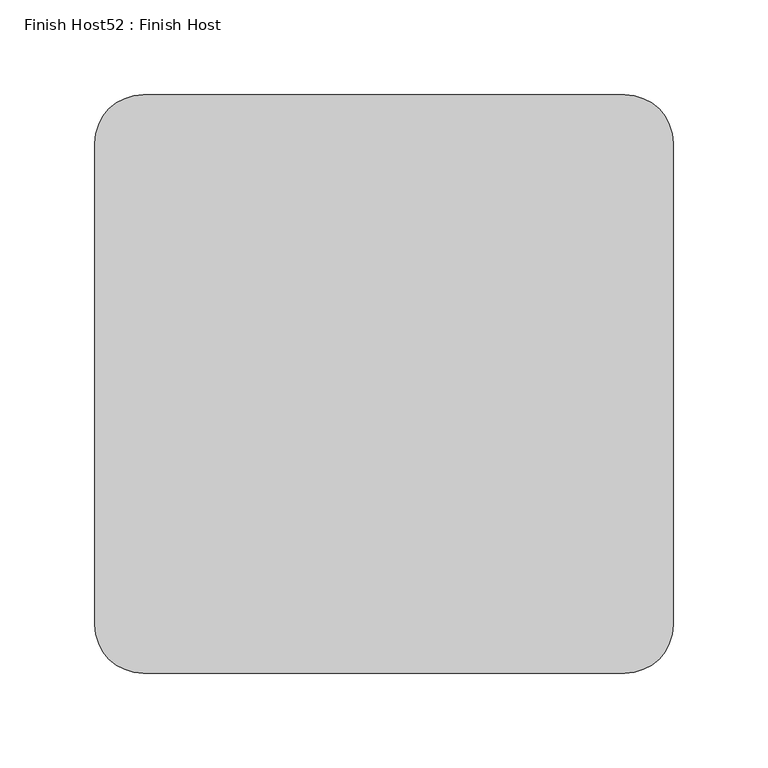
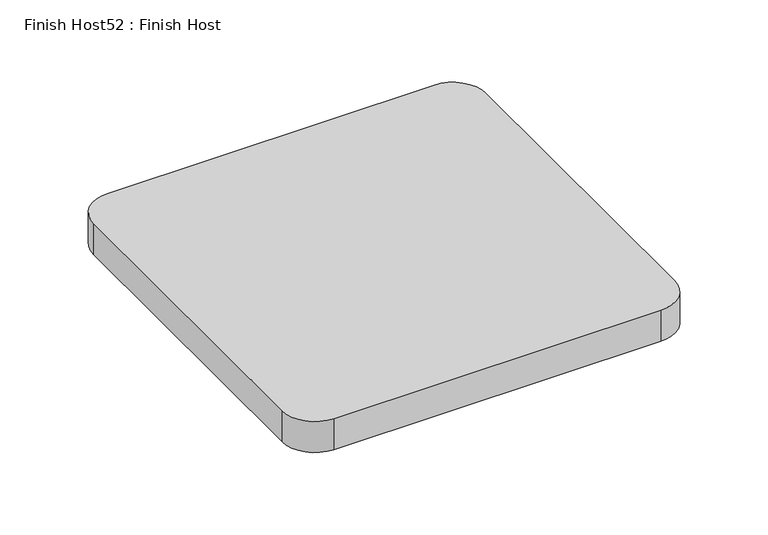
"""IFC4 building model written with IfcOpenShell, lengths in millimetres: proxy geometry, Finish Host52 : Finish Host."""

from ifc_helpers import new_model, si_unit, point, frame_2d, origin, origin_with_axes, place, context, project, spatial, polyline, circle_curve, trimmed, segment, composite_curve, outline, extrude, source, transform, mapped, element, save


def finish_host52_finish_host_f7eaa4a8(model_context):
    return source(origin(), model_context, "Body", "SweptSolid", [
        extrude(outline(composite_curve([segment(polyline([(8404.3478493, 1206.8122951), (8404.3478493, 1460.8122951)]), True, "CONTINUOUS"), segment(trimmed(circle_curve(frame_2d((8429.7478493, 1460.8122951)), 25.4), [point((8404.3478493, 1460.8122951))], [point((8429.7478493, 1486.2122951))], False, "CARTESIAN"), True, "CONTINUOUS"), segment(polyline([(8429.7478493, 1486.2122951), (8683.7478493, 1486.2122951)]), True, "CONTINUOUS"), segment(trimmed(circle_curve(frame_2d((8683.7478493, 1460.8122951)), 25.4), [point((8683.7478493, 1486.2122951))], [point((8709.1478493, 1460.8122951))], False, "CARTESIAN"), True, "CONTINUOUS"), segment(polyline([(8709.1478493, 1460.8122951), (8709.1478493, 1206.8122951)]), True, "CONTINUOUS"), segment(trimmed(circle_curve(frame_2d((8683.7478493, 1206.8122951)), 25.4), [point((8709.1478493, 1206.8122951))], [point((8683.7478493, 1181.4122951))], False, "CARTESIAN"), True, "CONTINUOUS"), segment(polyline([(8683.7478493, 1181.4122951), (8429.7478493, 1181.4122951)]), True, "CONTINUOUS"), segment(trimmed(circle_curve(frame_2d((8429.7478493, 1206.8122951)), 25.4), [point((8429.7478493, 1181.4122951))], [point((8404.3478493, 1206.8122951))], False, "CARTESIAN"), True, "CONTINUOUS")], self_intersect=False)), origin_with_axes(), (0.0, 0.0, 1.0), 25.4),
    ])


if __name__ == "__main__":
    model = new_model("IFC4")
    model_context = context("Model", 3, world=origin())
    ifc_project = project(units=[si_unit("LENGTHUNIT", "METRE", prefix="MILLI")], contexts=[model_context])
    site = spatial("IfcSite", under=ifc_project)
    building = spatial("IfcBuilding", under=site)
    placement = place(None, origin())
    finish_host52_finish_host_shape = finish_host52_finish_host_f7eaa4a8(model_context)
    element("IfcBuildingElementProxy", 1, Name="Finish Host52 : Finish Host", ObjectType="Finish Host52 : Finish Host", at=placement, inside=building, context=model_context, shape_type="MappedRepresentation", body=[
        mapped(finish_host52_finish_host_shape, transform((0.0, 0.0, 0.0), x_axis=(1.0, 0.0, 0.0), y_axis=(0.0, 1.0, 0.0), z_axis=(0.0, 0.0, 1.0))),
    ])
    save(model, "model.ifc")
